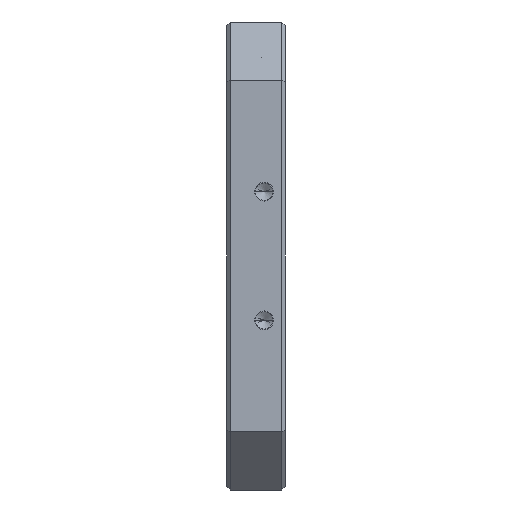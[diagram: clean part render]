
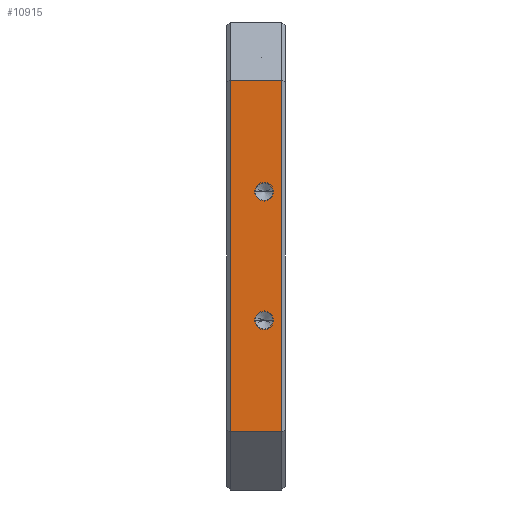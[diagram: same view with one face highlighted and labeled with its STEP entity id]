
A CAD part, left-side view. The second image highlights one B-rep face of the part: STEP entity #10915.
In plain terms, the highlighted planar face has unit normal (-1, 0, 0).
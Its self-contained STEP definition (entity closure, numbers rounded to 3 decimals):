
#3857=CARTESIAN_POINT('',(-200.,-7.,-55.));
#3858=DIRECTION('',(-1.,0.,0.));
#3859=DIRECTION('',(0.,1.,0.));
#3860=AXIS2_PLACEMENT_3D('',#3857,#3858,#3859);
#3862=CARTESIAN_POINT('',(-200.,-7.,-55.));
#3863=DIRECTION('',(-1.,0.,0.));
#3864=DIRECTION('',(0.,-1.,0.));
#3865=AXIS2_PLACEMENT_3D('',#3862,#3863,#3864);
#3867=CARTESIAN_POINT('',(-200.,-7.,55.));
#3868=DIRECTION('',(1.,0.,0.));
#3869=DIRECTION('',(0.,1.,0.));
#3870=AXIS2_PLACEMENT_3D('',#3867,#3868,#3869);
#3872=CARTESIAN_POINT('',(-200.,-7.,55.));
#3873=DIRECTION('',(1.,0.,0.));
#3874=DIRECTION('',(0.,-1.,0.));
#3875=AXIS2_PLACEMENT_3D('',#3872,#3873,#3874);
#3877=DIRECTION('',(0.,0.,1.));
#3878=VECTOR('',#3877,300.);
#3879=CARTESIAN_POINT('',(-200.,22.,-150.));
#3880=LINE('',#3879,#3878);
#3881=DIRECTION('',(0.,-1.,0.));
#3882=VECTOR('',#3881,44.);
#3883=CARTESIAN_POINT('',(-200.,22.,150.));
#3884=LINE('',#3883,#3882);
#3885=DIRECTION('',(0.,0.,-1.));
#3886=VECTOR('',#3885,300.);
#3887=CARTESIAN_POINT('',(-200.,-22.,150.));
#3888=LINE('',#3887,#3886);
#3889=DIRECTION('',(0.,-1.,0.));
#3890=VECTOR('',#3889,44.);
#3891=CARTESIAN_POINT('',(-200.,22.,-150.));
#3892=LINE('',#3891,#3890);
#4535=CARTESIAN_POINT('',(-200.,0.5,-55.));
#4536=CARTESIAN_POINT('',(-200.,-14.5,-55.));
#4537=VERTEX_POINT('',#4535);
#4538=VERTEX_POINT('',#4536);
#4545=CARTESIAN_POINT('',(-200.,0.5,55.));
#4546=VERTEX_POINT('',#4545);
#4547=CARTESIAN_POINT('',(-200.,-14.5,55.));
#4548=VERTEX_POINT('',#4547);
#4573=CARTESIAN_POINT('',(-200.,22.,-150.));
#4574=VERTEX_POINT('',#4573);
#4577=CARTESIAN_POINT('',(-200.,22.,150.));
#4578=VERTEX_POINT('',#4577);
#4607=CARTESIAN_POINT('',(-200.,-22.,-150.));
#4608=VERTEX_POINT('',#4607);
#4609=CARTESIAN_POINT('',(-200.,-22.,150.));
#4610=VERTEX_POINT('',#4609);
#10890=CARTESIAN_POINT('',(-200.,-25.,-200.));
#10891=DIRECTION('',(-1.,0.,0.));
#10892=DIRECTION('',(0.,0.,1.));
#10893=AXIS2_PLACEMENT_3D('',#10890,#10891,#10892);
#10894=PLANE('',#10893);
#10896=ORIENTED_EDGE('',*,*,#10895,.T.);
#10897=ORIENTED_EDGE('',*,*,#10858,.T.);
#10898=ORIENTED_EDGE('',*,*,#10881,.T.);
#10900=ORIENTED_EDGE('',*,*,#10899,.F.);
#10901=EDGE_LOOP('',(#10896,#10897,#10898,#10900));
#10902=FACE_OUTER_BOUND('',#10901,.F.);
#10904=ORIENTED_EDGE('',*,*,#10903,.F.);
#10906=ORIENTED_EDGE('',*,*,#10905,.F.);
#10907=EDGE_LOOP('',(#10904,#10906));
#10908=FACE_BOUND('',#10907,.F.);
#10910=ORIENTED_EDGE('',*,*,#10909,.T.);
#10912=ORIENTED_EDGE('',*,*,#10911,.T.);
#10913=EDGE_LOOP('',(#10910,#10912));
#10914=FACE_BOUND('',#10913,.F.);
#10915=ADVANCED_FACE('',(#10902,#10908,#10914),#10894,.T.);
#3861=CIRCLE('',#3860,7.5);
#3866=CIRCLE('',#3865,7.5);
#3871=CIRCLE('',#3870,7.5);
#3876=CIRCLE('',#3875,7.5);
#10858=EDGE_CURVE('',#4578,#4610,#3884,.T.);
#10881=EDGE_CURVE('',#4610,#4608,#3888,.T.);
#10895=EDGE_CURVE('',#4574,#4578,#3880,.T.);
#10899=EDGE_CURVE('',#4574,#4608,#3892,.T.);
#10903=EDGE_CURVE('',#4546,#4548,#3871,.T.);
#10905=EDGE_CURVE('',#4548,#4546,#3876,.T.);
#10909=EDGE_CURVE('',#4537,#4538,#3861,.T.);
#10911=EDGE_CURVE('',#4538,#4537,#3866,.T.);
